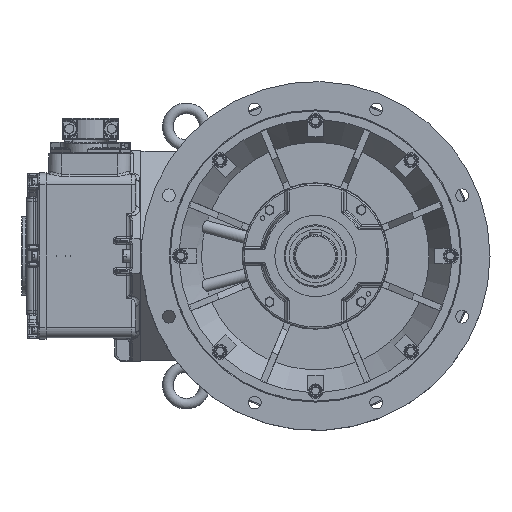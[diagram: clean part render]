
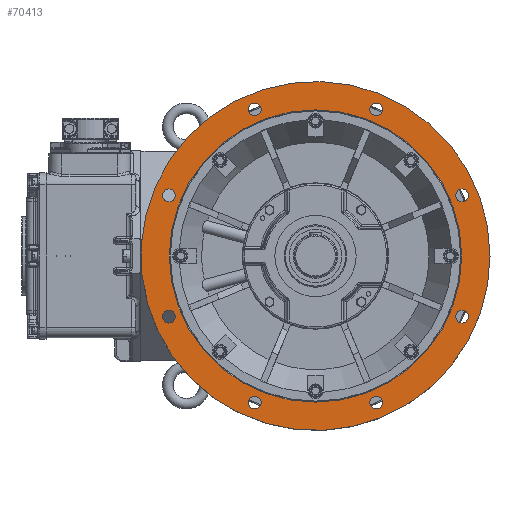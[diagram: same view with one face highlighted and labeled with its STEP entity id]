
A CAD part, left-side view. The second image highlights one B-rep face of the part: STEP entity #70413.
In plain terms, the highlighted planar face has unit normal (-1, 0, 0).
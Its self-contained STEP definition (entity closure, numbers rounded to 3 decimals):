
#4045=CIRCLE('',#74362,12.);
#4047=CIRCLE('',#74365,12.);
#4049=CIRCLE('',#74368,12.);
#4051=CIRCLE('',#74371,12.);
#4053=CIRCLE('',#74374,12.);
#4055=CIRCLE('',#74377,12.);
#4057=CIRCLE('',#74380,12.);
#4059=CIRCLE('',#74383,12.);
#4079=CIRCLE('',#74421,276.402);
#4080=CIRCLE('',#74422,330.);
#11992=ORIENTED_EDGE('',*,*,#23720,.F.);
#11993=ORIENTED_EDGE('',*,*,#23722,.F.);
#11994=ORIENTED_EDGE('',*,*,#23724,.F.);
#11995=ORIENTED_EDGE('',*,*,#23726,.F.);
#11996=ORIENTED_EDGE('',*,*,#23728,.F.);
#11997=ORIENTED_EDGE('',*,*,#23730,.F.);
#11998=ORIENTED_EDGE('',*,*,#23732,.F.);
#11999=ORIENTED_EDGE('',*,*,#23734,.F.);
#12000=ORIENTED_EDGE('',*,*,#23754,.F.);
#12001=ORIENTED_EDGE('',*,*,#23755,.T.);
#23720=EDGE_CURVE('',#30079,#30079,#4045,.T.);
#23722=EDGE_CURVE('',#30081,#30081,#4047,.T.);
#23724=EDGE_CURVE('',#30083,#30083,#4049,.T.);
#23726=EDGE_CURVE('',#30085,#30085,#4051,.T.);
#23728=EDGE_CURVE('',#30087,#30087,#4053,.T.);
#23730=EDGE_CURVE('',#30089,#30089,#4055,.T.);
#23732=EDGE_CURVE('',#30091,#30091,#4057,.T.);
#23734=EDGE_CURVE('',#30093,#30093,#4059,.T.);
#23754=EDGE_CURVE('',#30113,#30113,#4079,.T.);
#23755=EDGE_CURVE('',#30114,#30114,#4080,.F.);
#30079=VERTEX_POINT('',#102764);
#30081=VERTEX_POINT('',#102769);
#30083=VERTEX_POINT('',#102774);
#30085=VERTEX_POINT('',#102779);
#30087=VERTEX_POINT('',#102784);
#30089=VERTEX_POINT('',#102789);
#30091=VERTEX_POINT('',#102794);
#30093=VERTEX_POINT('',#102799);
#30113=VERTEX_POINT('',#102857);
#30114=VERTEX_POINT('',#102859);
#40716=EDGE_LOOP('',(#11992));
#40717=EDGE_LOOP('',(#11993));
#40718=EDGE_LOOP('',(#11994));
#40719=EDGE_LOOP('',(#11995));
#40720=EDGE_LOOP('',(#11996));
#40721=EDGE_LOOP('',(#11997));
#40722=EDGE_LOOP('',(#11998));
#40723=EDGE_LOOP('',(#11999));
#40724=EDGE_LOOP('',(#12000));
#40725=EDGE_LOOP('',(#12001));
#44217=FACE_BOUND('',#40716,.T.);
#44218=FACE_BOUND('',#40717,.T.);
#44219=FACE_BOUND('',#40718,.T.);
#44220=FACE_BOUND('',#40719,.T.);
#44221=FACE_BOUND('',#40720,.T.);
#44222=FACE_BOUND('',#40721,.T.);
#44223=FACE_BOUND('',#40722,.T.);
#44224=FACE_BOUND('',#40723,.T.);
#44225=FACE_BOUND('',#40724,.T.);
#44226=FACE_BOUND('',#40725,.T.);
#47120=PLANE('',#74420);
#70413=ADVANCED_FACE('',(#44217,#44218,#44219,#44220,#44221,#44222,#44223,
#44224,#44225,#44226),#47120,.F.);
#74362=AXIS2_PLACEMENT_3D('',#102763,#83738,#83739);
#74365=AXIS2_PLACEMENT_3D('',#102768,#83744,#83745);
#74368=AXIS2_PLACEMENT_3D('',#102773,#83750,#83751);
#74371=AXIS2_PLACEMENT_3D('',#102778,#83756,#83757);
#74374=AXIS2_PLACEMENT_3D('',#102783,#83762,#83763);
#74377=AXIS2_PLACEMENT_3D('',#102788,#83768,#83769);
#74380=AXIS2_PLACEMENT_3D('',#102793,#83774,#83775);
#74383=AXIS2_PLACEMENT_3D('',#102798,#83780,#83781);
#74420=AXIS2_PLACEMENT_3D('',#102855,#83854,#83855);
#74421=AXIS2_PLACEMENT_3D('',#102856,#83856,#83857);
#74422=AXIS2_PLACEMENT_3D('',#102858,#83858,#83859);
#83738=DIRECTION('',(-1.,0.,0.));
#83739=DIRECTION('',(0.,0.,1.));
#83744=DIRECTION('',(-1.,0.,0.));
#83745=DIRECTION('',(0.,0.,1.));
#83750=DIRECTION('',(-1.,0.,0.));
#83751=DIRECTION('',(0.,0.,1.));
#83756=DIRECTION('',(-1.,0.,0.));
#83757=DIRECTION('',(0.,0.,1.));
#83762=DIRECTION('',(-1.,0.,0.));
#83763=DIRECTION('',(0.,0.,1.));
#83768=DIRECTION('',(-1.,0.,0.));
#83769=DIRECTION('',(0.,0.,1.));
#83774=DIRECTION('',(-1.,0.,0.));
#83775=DIRECTION('',(0.,0.,1.));
#83780=DIRECTION('',(-1.,0.,0.));
#83781=DIRECTION('',(0.,0.,1.));
#83854=DIRECTION('',(1.,0.,0.));
#83855=DIRECTION('',(0.,-1.,0.));
#83856=DIRECTION('',(-1.,0.,0.));
#83857=DIRECTION('',(0.,1.,0.));
#83858=DIRECTION('',(1.,0.,0.));
#83859=DIRECTION('',(0.,-1.,0.));
#102763=CARTESIAN_POINT('',(-89.5,114.805,277.164));
#102764=CARTESIAN_POINT('',(-89.5,114.805,289.164));
#102768=CARTESIAN_POINT('',(-89.5,-114.805,277.164));
#102769=CARTESIAN_POINT('',(-89.5,-114.805,289.164));
#102773=CARTESIAN_POINT('',(-89.5,-277.164,114.805));
#102774=CARTESIAN_POINT('',(-89.5,-277.164,126.805));
#102778=CARTESIAN_POINT('',(-89.5,-277.164,-114.805));
#102779=CARTESIAN_POINT('',(-89.5,-277.164,-102.805));
#102783=CARTESIAN_POINT('',(-89.5,-114.805,-277.164));
#102784=CARTESIAN_POINT('',(-89.5,-114.805,-265.164));
#102788=CARTESIAN_POINT('',(-89.5,114.805,-277.164));
#102789=CARTESIAN_POINT('',(-89.5,114.805,-265.164));
#102793=CARTESIAN_POINT('',(-89.5,277.164,-114.805));
#102794=CARTESIAN_POINT('',(-89.5,277.164,-102.805));
#102798=CARTESIAN_POINT('',(-89.5,277.164,114.805));
#102799=CARTESIAN_POINT('',(-89.5,277.164,126.805));
#102855=CARTESIAN_POINT('',(-89.5,276.402,0.));
#102856=CARTESIAN_POINT('',(-89.5,0.,0.));
#102857=CARTESIAN_POINT('',(-89.5,276.402,0.));
#102858=CARTESIAN_POINT('',(-89.5,0.,0.));
#102859=CARTESIAN_POINT('',(-89.5,-330.,0.));
